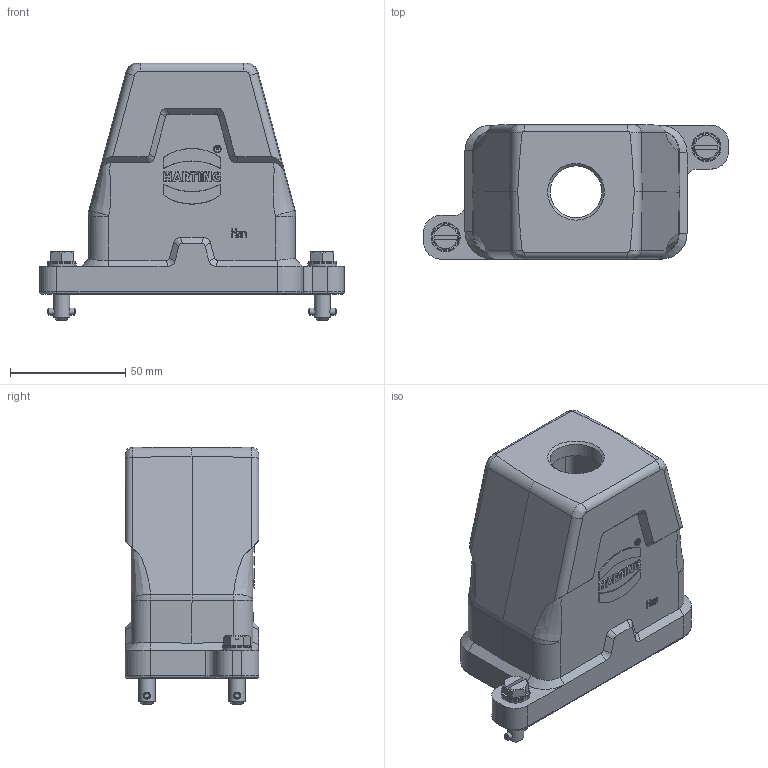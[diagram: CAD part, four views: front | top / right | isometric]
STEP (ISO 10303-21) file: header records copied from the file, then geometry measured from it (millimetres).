
FILE_DESCRIPTION(/* description */ (''),/* implementation_level */ '2;1');
FILE_NAME(/* name */ '100767503ugm000_a.stp',/* time_stamp */ '2022-03-12T07:12:32+01:00',/* author */ (''),/* organization */ (''),/* preprocessor_version */ 'ST-DEVELOPER v16.7',/* originating_system */ 'SIEMENS PLM Software NX 1911',/* authorisation */ '');
FILE_SCHEMA (('AUTOMOTIVE_DESIGN { 1 0 10303 214 3 1 1 1 }'));
Length unit declared in the file: millimetre
Products named in the file (1): 100767503ugm000_a
Bounding box: 132 x 58 x 111.6 mm (x, y, z)
Volume: 175521.8 mm3; surface area: 60927 mm2
Topology: 1 solids, 1 shells, 479 faces, 1575 edges, 1478 vertices
Faces by surface type: plane 220, cylinder 95, bspline 76, cone 68, torus 20
Full cylindrical faces by diameter (mm): 3 x8, 7 x2, 22.5 x1
Entity records: 21971 total; most frequent: CARTESIAN_POINT 8042, ORIENTED_EDGE 2278, DIRECTION 2090, EDGE_CURVE 1139, VERTEX_POINT 730, AXIS2_PLACEMENT_3D 712, LINE 666, VECTOR 666
